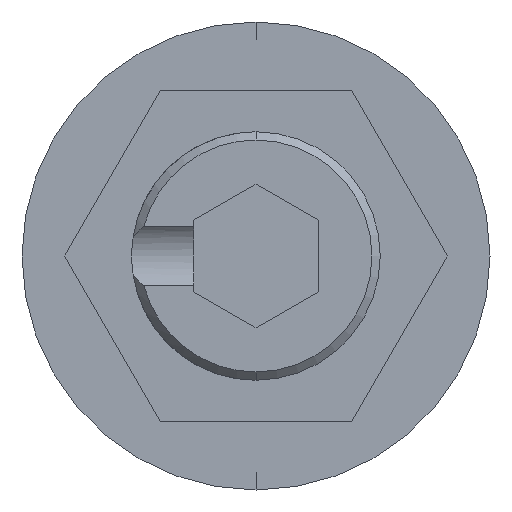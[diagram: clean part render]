
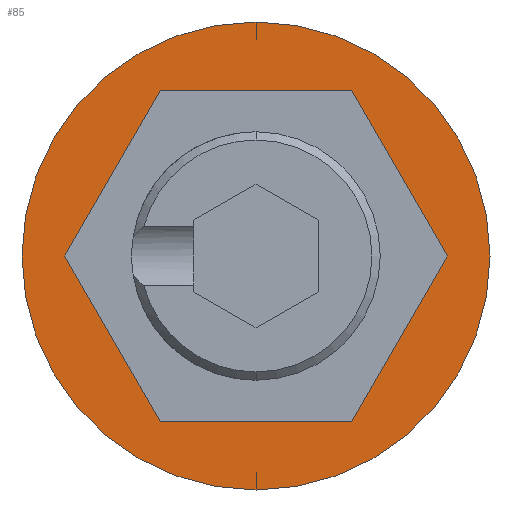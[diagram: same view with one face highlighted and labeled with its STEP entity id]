
A CAD part, front view. The second image highlights one B-rep face of the part: STEP entity #85.
In plain terms, the highlighted planar face has unit normal (0, -1, 0).
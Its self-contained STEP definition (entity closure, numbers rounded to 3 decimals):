
#85 = ADVANCED_FACE ( 'NONE', ( #387, #371 ), #971, .T. ) ;
#106 = DIRECTION ( 'NONE',  ( 0., 0., -1. ) ) ;
#107 = DIRECTION ( 'NONE',  ( 0., -1., 0. ) ) ;
#119 = DIRECTION ( 'NONE',  ( 0.5, 0., 0.866 ) ) ;
#186 = CARTESIAN_POINT ( 'NONE',  ( -2.309, 0., -4. ) ) ;
#213 = CARTESIAN_POINT ( 'NONE',  ( 2.309, 0., 4. ) ) ;
#237 = DIRECTION ( 'NONE',  ( 0., 0., -1. ) ) ;
#327 = CARTESIAN_POINT ( 'NONE',  ( -4.619, 0., 0. ) ) ;
#371 = FACE_OUTER_BOUND ( 'NONE', #1469, .T. ) ;
#387 = FACE_BOUND ( 'NONE', #757, .T. ) ;
#529 = VERTEX_POINT ( 'NONE', #572 ) ;
#572 = CARTESIAN_POINT ( 'NONE',  ( -2.309, 0., 4. ) ) ;
#695 = ORIENTED_EDGE ( 'NONE', *, *, #746, .F. ) ;
#718 = DIRECTION ( 'NONE',  ( 0., -1., 0. ) ) ;
#719 = ORIENTED_EDGE ( 'NONE', *, *, #1067, .F. ) ;
#746 = EDGE_CURVE ( 'NONE', #904, #529, #2091, .T. ) ;
#747 = DIRECTION ( 'NONE',  ( -0.5, 0., 0.866 ) ) ;
#752 = AXIS2_PLACEMENT_3D ( 'NONE', #1971, #718, #1108 ) ;
#757 = EDGE_LOOP ( 'NONE', ( #719, #2048, #1127, #695, #1907, #942 ) ) ;
#857 = VERTEX_POINT ( 'NONE', #1461 ) ;
#867 = EDGE_CURVE ( 'NONE', #1422, #904, #1973, .T. ) ;
#888 = ORIENTED_EDGE ( 'NONE', *, *, #1318, .T. ) ;
#904 = VERTEX_POINT ( 'NONE', #1339 ) ;
#907 = EDGE_CURVE ( 'NONE', #1139, #1422, #1874, .T. ) ;
#930 = AXIS2_PLACEMENT_3D ( 'NONE', #1915, #1781, #106 ) ;
#934 = CIRCLE ( 'NONE', #752, 5.65 ) ;
#942 = ORIENTED_EDGE ( 'NONE', *, *, #907, .F. ) ;
#962 = CARTESIAN_POINT ( 'NONE',  ( -2.309, 0., -4. ) ) ;
#971 = PLANE ( 'NONE',  #1726 ) ;
#1067 = EDGE_CURVE ( 'NONE', #1570, #1139, #1758, .T. ) ;
#1102 = DIRECTION ( 'NONE',  ( 1., 0., 0. ) ) ;
#1108 = DIRECTION ( 'NONE',  ( 0., 0., -1. ) ) ;
#1127 = ORIENTED_EDGE ( 'NONE', *, *, #1405, .F. ) ;
#1139 = VERTEX_POINT ( 'NONE', #1877 ) ;
#1239 = VECTOR ( 'NONE', #1843, 1000. ) ;
#1260 = LINE ( 'NONE', #1849, #1239 ) ;
#1296 = VERTEX_POINT ( 'NONE', #1693 ) ;
#1298 = EDGE_CURVE ( 'NONE', #1343, #1570, #1456, .T. ) ;
#1317 = CARTESIAN_POINT ( 'NONE',  ( 0., 0., 0. ) ) ;
#1318 = EDGE_CURVE ( 'NONE', #1296, #857, #1410, .T. ) ;
#1339 = CARTESIAN_POINT ( 'NONE',  ( 2.309, 0., 4. ) ) ;
#1343 = VERTEX_POINT ( 'NONE', #1615 ) ;
#1405 = EDGE_CURVE ( 'NONE', #529, #1343, #1260, .T. ) ;
#1410 = CIRCLE ( 'NONE', #930, 5.65 ) ;
#1422 = VERTEX_POINT ( 'NONE', #1895 ) ;
#1439 = VECTOR ( 'NONE', #1898, 1000. ) ;
#1456 = LINE ( 'NONE', #327, #1439 ) ;
#1461 = CARTESIAN_POINT ( 'NONE',  ( 0., 0., 5.65 ) ) ;
#1469 = EDGE_LOOP ( 'NONE', ( #888, #1535 ) ) ;
#1535 = ORIENTED_EDGE ( 'NONE', *, *, #1613, .T. ) ;
#1570 = VERTEX_POINT ( 'NONE', #962 ) ;
#1613 = EDGE_CURVE ( 'NONE', #857, #1296, #934, .T. ) ;
#1615 = CARTESIAN_POINT ( 'NONE',  ( -4.619, 0., 0. ) ) ;
#1669 = DIRECTION ( 'NONE',  ( -1., 0., 0. ) ) ;
#1693 = CARTESIAN_POINT ( 'NONE',  ( 0., 0., -5.65 ) ) ;
#1701 = CARTESIAN_POINT ( 'NONE',  ( 4.619, 0., 0. ) ) ;
#1726 = AXIS2_PLACEMENT_3D ( 'NONE', #1317, #107, #237 ) ;
#1758 = LINE ( 'NONE', #186, #1798 ) ;
#1781 = DIRECTION ( 'NONE',  ( 0., -1., 0. ) ) ;
#1798 = VECTOR ( 'NONE', #1102, 1000. ) ;
#1843 = DIRECTION ( 'NONE',  ( -0.5, 0., -0.866 ) ) ;
#1849 = CARTESIAN_POINT ( 'NONE',  ( -2.309, 0., 4. ) ) ;
#1856 = VECTOR ( 'NONE', #119, 1000. ) ;
#1874 = LINE ( 'NONE', #2017, #1856 ) ;
#1877 = CARTESIAN_POINT ( 'NONE',  ( 2.309, 0., -4. ) ) ;
#1895 = CARTESIAN_POINT ( 'NONE',  ( 4.619, 0., 0. ) ) ;
#1896 = VECTOR ( 'NONE', #747, 1000. ) ;
#1898 = DIRECTION ( 'NONE',  ( 0.5, 0., -0.866 ) ) ;
#1907 = ORIENTED_EDGE ( 'NONE', *, *, #867, .F. ) ;
#1915 = CARTESIAN_POINT ( 'NONE',  ( 0., 0., 0. ) ) ;
#1971 = CARTESIAN_POINT ( 'NONE',  ( 0., 0., 0. ) ) ;
#1973 = LINE ( 'NONE', #1701, #1896 ) ;
#2006 = VECTOR ( 'NONE', #1669, 1000. ) ;
#2017 = CARTESIAN_POINT ( 'NONE',  ( 2.309, 0., -4. ) ) ;
#2048 = ORIENTED_EDGE ( 'NONE', *, *, #1298, .F. ) ;
#2091 = LINE ( 'NONE', #213, #2006 ) ;
